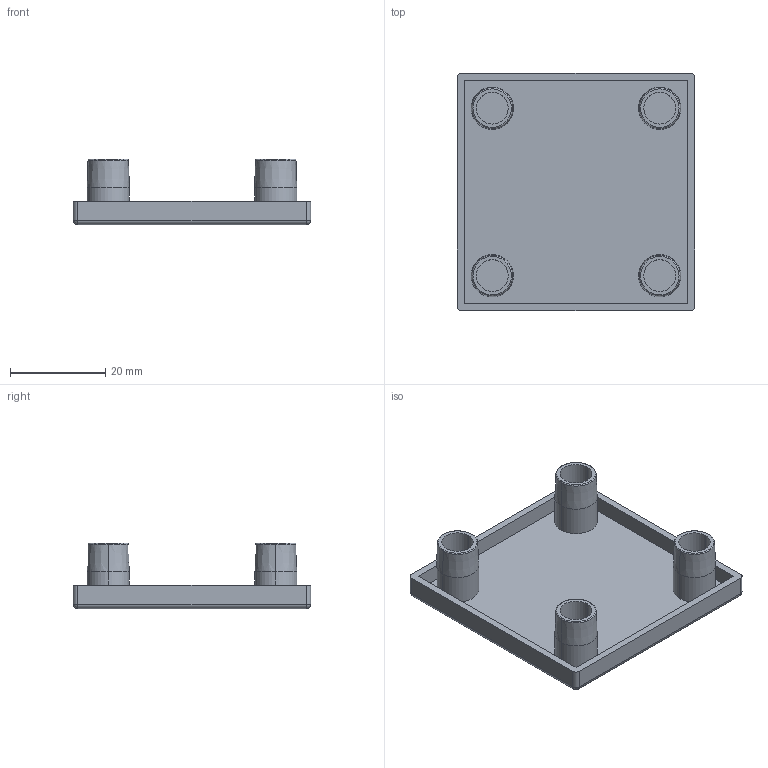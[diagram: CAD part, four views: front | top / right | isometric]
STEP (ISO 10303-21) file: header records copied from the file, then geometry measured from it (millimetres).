
FILE_DESCRIPTION (( 'STEP AP203' ), '1' );
FILE_NAME ('DEC5050.STEP', '2022-06-24T02:11:48', ( '' ), ( '' ), 'SwSTEP 2.0', 'SolidWorks 2017', '' );
FILE_SCHEMA (( 'CONFIG_CONTROL_DESIGN' ));
Length unit declared in the file: millimetre
Products named in the file (1): DEC5050
Bounding box: 50 x 50 x 13.8 mm (x, y, z)
Volume: 5981.2 mm3; surface area: 8928.3 mm2
Topology: 1 solids, 1 shells, 63 faces, 132 edges, 76 vertices
Faces by surface type: cylinder 24, plane 19, torus 8, cone 8, sphere 4
Entity records: 1727 total; most frequent: DIRECTION 328, CARTESIAN_POINT 268, ORIENTED_EDGE 256, AXIS2_PLACEMENT_3D 136, EDGE_CURVE 128, VERTEX_POINT 76, CIRCLE 72, EDGE_LOOP 72
